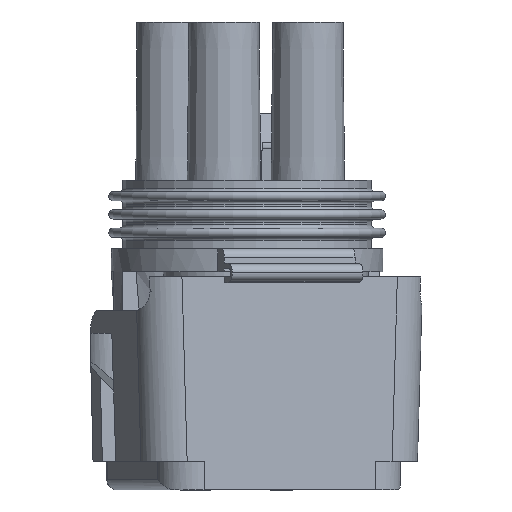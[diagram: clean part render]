
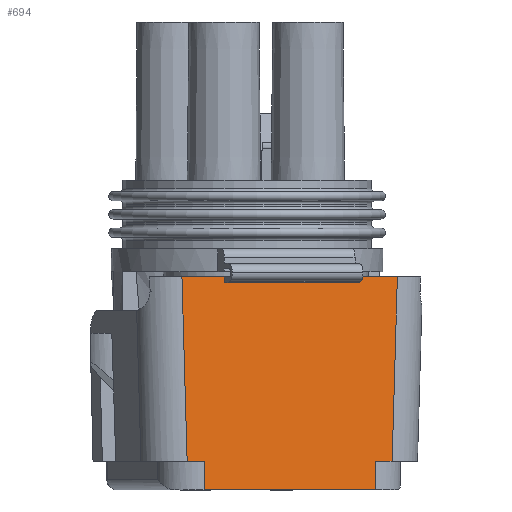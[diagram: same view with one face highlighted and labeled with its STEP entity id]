
A CAD part, front view. The second image highlights one B-rep face of the part: STEP entity #694.
In plain terms, the highlighted planar face has unit normal (0.309, -0.951, 0).
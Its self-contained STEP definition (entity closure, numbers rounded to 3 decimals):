
#194=B_SPLINE_CURVE_WITH_KNOTS('',3,(#6601,#6602,#6603,#6604),
 .UNSPECIFIED.,.F.,.F.,(4,4),(0.,1.),.UNSPECIFIED.);
#195=B_SPLINE_CURVE_WITH_KNOTS('',3,(#6612,#6613,#6614,#6615),
 .UNSPECIFIED.,.F.,.F.,(4,4),(0.,1.),.UNSPECIFIED.);
#426=FACE_OUTER_BOUND('',#1683,.T.);
#694=ADVANCED_FACE('',(#426),#805,.F.);
#805=PLANE('',#4090);
#1070=LINE('',#6595,#1352);
#1071=LINE('',#6610,#1353);
#1072=LINE('',#6619,#1354);
#1074=LINE('',#6626,#1356);
#1077=LINE('',#6632,#1359);
#1079=LINE('',#6642,#1361);
#1080=LINE('',#6646,#1362);
#1081=LINE('',#6648,#1363);
#1082=LINE('',#6649,#1364);
#1083=LINE('',#6651,#1365);
#1352=VECTOR('',#5094,1.);
#1353=VECTOR('',#5107,1.);
#1354=VECTOR('',#5114,1.);
#1356=VECTOR('',#5120,1.);
#1359=VECTOR('',#5125,1.);
#1361=VECTOR('',#5137,1.);
#1362=VECTOR('',#5142,1.);
#1363=VECTOR('',#5143,1.);
#1364=VECTOR('',#5144,1.);
#1365=VECTOR('',#5145,1.);
#1683=EDGE_LOOP('',(#2665,#2666,#2667,#2668,#2669,#2670,#2671,#2672,#2673,
#2674,#2675,#2676));
#2665=ORIENTED_EDGE('',*,*,#3544,.T.);
#2666=ORIENTED_EDGE('',*,*,#3538,.T.);
#2667=ORIENTED_EDGE('',*,*,#3536,.T.);
#2668=ORIENTED_EDGE('',*,*,#3535,.T.);
#2669=ORIENTED_EDGE('',*,*,#3532,.T.);
#2670=ORIENTED_EDGE('',*,*,#3529,.T.);
#2671=ORIENTED_EDGE('',*,*,#3549,.T.);
#2672=ORIENTED_EDGE('',*,*,#3551,.T.);
#2673=ORIENTED_EDGE('',*,*,#3552,.F.);
#2674=ORIENTED_EDGE('',*,*,#3541,.T.);
#2675=ORIENTED_EDGE('',*,*,#3553,.T.);
#2676=ORIENTED_EDGE('',*,*,#3554,.F.);
#3033=VERTEX_POINT('',#6596);
#3034=VERTEX_POINT('',#6597);
#3035=VERTEX_POINT('',#6605);
#3036=VERTEX_POINT('',#6609);
#3037=VERTEX_POINT('',#6616);
#3038=VERTEX_POINT('',#6620);
#3040=VERTEX_POINT('',#6625);
#3041=VERTEX_POINT('',#6627);
#3043=VERTEX_POINT('',#6633);
#3046=VERTEX_POINT('',#6643);
#3047=VERTEX_POINT('',#6647);
#3048=VERTEX_POINT('',#6650);
#3529=EDGE_CURVE('',#3033,#3034,#1070,.T.);
#3532=EDGE_CURVE('',#3035,#3033,#194,.T.);
#3535=EDGE_CURVE('',#3036,#3035,#1071,.T.);
#3536=EDGE_CURVE('',#3037,#3036,#195,.T.);
#3538=EDGE_CURVE('',#3038,#3037,#1072,.T.);
#3541=EDGE_CURVE('',#3041,#3040,#1074,.T.);
#3544=EDGE_CURVE('',#3043,#3038,#1077,.T.);
#3549=EDGE_CURVE('',#3034,#3046,#1079,.T.);
#3551=EDGE_CURVE('',#3046,#3047,#1080,.T.);
#3552=EDGE_CURVE('',#3041,#3047,#1081,.T.);
#3553=EDGE_CURVE('',#3040,#3048,#1082,.T.);
#3554=EDGE_CURVE('',#3043,#3048,#1083,.T.);
#4090=AXIS2_PLACEMENT_3D('',#6652,#5146,#5147);
#5094=DIRECTION('',(0.951,0.309,0.));
#5107=DIRECTION('',(0.951,0.309,0.));
#5114=DIRECTION('',(0.951,0.309,0.));
#5120=DIRECTION('',(-0.951,-0.309,0.));
#5125=DIRECTION('',(0.028,0.009,-1.));
#5137=DIRECTION('',(0.028,0.009,1.));
#5142=DIRECTION('',(-0.951,-0.309,0.));
#5143=DIRECTION('',(0.,0.,1.));
#5144=DIRECTION('',(0.,0.,1.));
#5145=DIRECTION('',(0.951,0.309,0.));
#5146=DIRECTION('',(-0.309,0.951,0.));
#5147=DIRECTION('',(0.951,0.309,0.));
#6595=CARTESIAN_POINT('',(-8.323,-15.323,-24.35));
#6596=CARTESIAN_POINT('',(11.174,-8.987,-24.35));
#6597=CARTESIAN_POINT('',(12.653,-8.508,-24.35));
#6601=CARTESIAN_POINT('',(11.174,-8.988,-26.85));
#6602=CARTESIAN_POINT('',(11.174,-8.988,-26.017));
#6603=CARTESIAN_POINT('',(11.174,-8.988,-25.183));
#6604=CARTESIAN_POINT('',(11.174,-8.988,-24.35));
#6605=CARTESIAN_POINT('',(11.174,-8.987,-26.85));
#6609=CARTESIAN_POINT('',(-3.757,-13.839,-26.85));
#6610=CARTESIAN_POINT('',(-6.801,-14.828,-26.85));
#6612=CARTESIAN_POINT('',(-3.757,-13.839,-24.35));
#6613=CARTESIAN_POINT('',(-3.757,-13.839,-25.183));
#6614=CARTESIAN_POINT('',(-3.757,-13.839,-26.017));
#6615=CARTESIAN_POINT('',(-3.757,-13.839,-26.85));
#6616=CARTESIAN_POINT('',(-3.758,-13.838,-24.35));
#6619=CARTESIAN_POINT('',(-8.323,-15.323,-24.35));
#6620=CARTESIAN_POINT('',(-5.236,-14.32,-24.35));
#6625=CARTESIAN_POINT('',(-1.998,-13.267,-8.75));
#6626=CARTESIAN_POINT('',(-6.801,-14.828,-8.75));
#6627=CARTESIAN_POINT('',(9.415,-9.559,-8.75));
#6632=CARTESIAN_POINT('',(-5.613,-14.442,-11.099));
#6633=CARTESIAN_POINT('',(-5.694,-14.468,-8.25));
#6642=CARTESIAN_POINT('',(13.093,-8.364,-8.876));
#6643=CARTESIAN_POINT('',(13.111,-8.359,-8.25));
#6646=CARTESIAN_POINT('',(-6.801,-14.828,-8.25));
#6647=CARTESIAN_POINT('',(9.415,-9.559,-8.25));
#6648=CARTESIAN_POINT('',(9.415,-9.56,-8.25));
#6649=CARTESIAN_POINT('',(-1.998,-13.268,-8.25));
#6650=CARTESIAN_POINT('',(-1.998,-13.267,-8.25));
#6651=CARTESIAN_POINT('',(-6.801,-14.828,-8.25));
#6652=CARTESIAN_POINT('',(-6.801,-14.828,-8.25));
